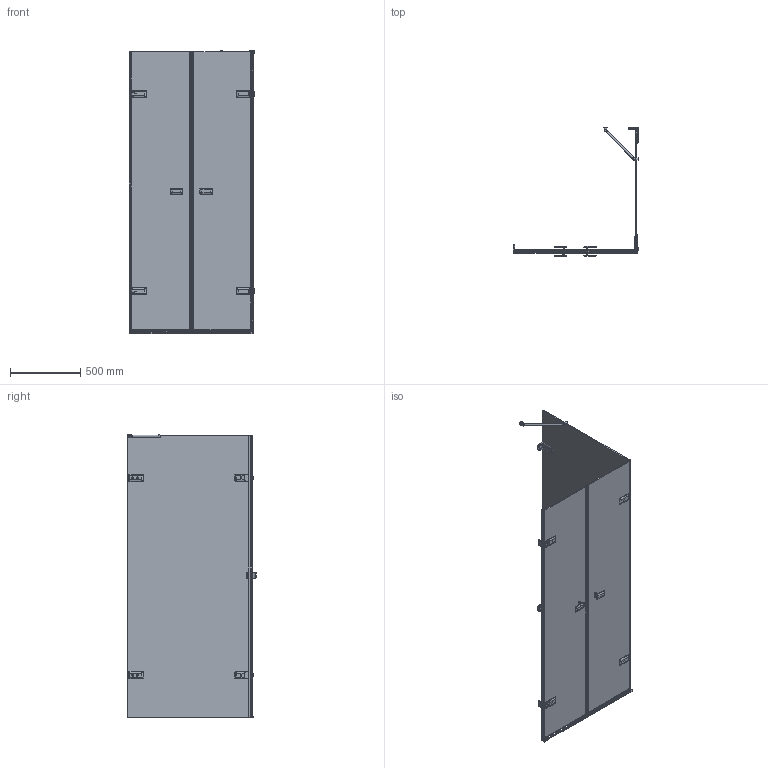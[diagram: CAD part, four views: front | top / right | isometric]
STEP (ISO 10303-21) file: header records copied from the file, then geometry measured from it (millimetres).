
FILE_DESCRIPTION(/* description */ (''),/* implementation_level */ '2;1');
FILE_NAME(/* name */ 'E:\Работа\Сергей\Душевые кабинки\! Работа\!!!\TREND SQUARE GK-863KTWO\TREND SQUARE GK-863KTWO левая модель\TREND SQUARE GK-863KTWO ЛЕВАЯ-3D.stp',/* time_stamp */ '2017-11-05T18:45:45+03:00',/* author */ ('PC'),/* organization */ (''),/* preprocessor_version */ 'ST-DEVELOPER v15.2',/* originating_system */ 'Autodesk Inventor 2014',/* authorisation */ '');
FILE_SCHEMA (('AUTOMOTIVE_DESIGN { 1 0 10303 214 3 1 1 }'));
Products named in the file (1): TREND SQUARE GK-863KTWO ЛЕВАЯ-3
D
Bounding box: 892.5 x 912.6 x 2009.49 mm (x, y, z)
Volume: 25763547.7 mm3; surface area: 7652687.4 mm2
Topology: 10 solids, 26 shells, 2073 faces, 5625 edges, 3708 vertices
Faces by surface type: plane 1192, cylinder 560, bspline 202, torus 57, cone 44, sphere 18
Full cylindrical faces by diameter (mm): 4.134 x8, 4.917 x4, 5.2 x4, 6 x4, 9 x8, 11 x4, 12 x2, 13 x10, 15 x1, 16 x10, 20 x2, 26 x1, 28 x2, 28.5 x2, 40 x2
Entity records: 84285 total; most frequent: CARTESIAN_POINT 31587, ORIENTED_EDGE 10464, DIRECTION 10342, EDGE_CURVE 5232, AXIS2_PLACEMENT_3D 3458, LINE 3426, VECTOR 3426, VERTEX_POINT 3346
